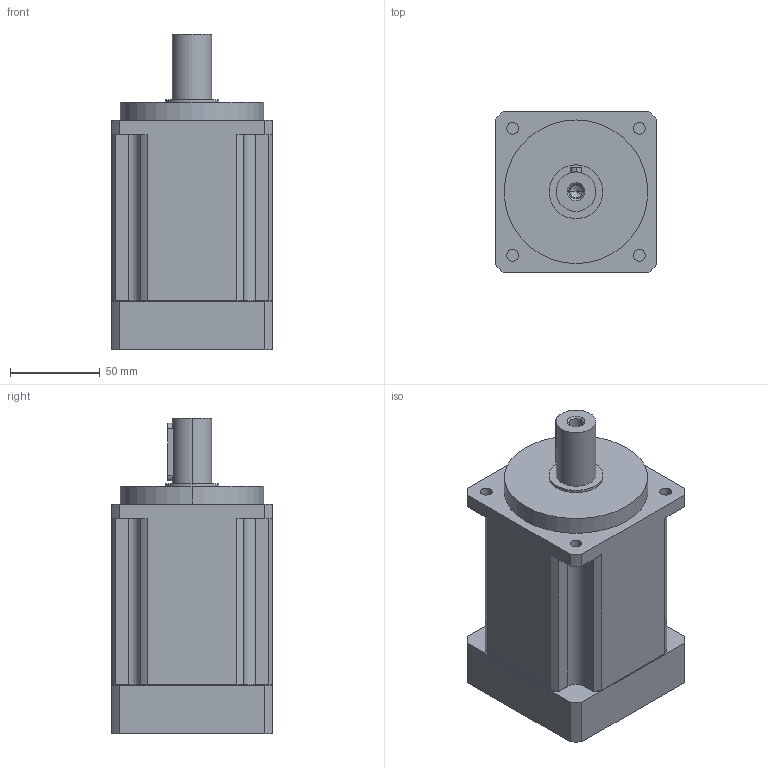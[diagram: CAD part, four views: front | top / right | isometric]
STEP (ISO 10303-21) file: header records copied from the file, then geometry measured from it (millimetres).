
FILE_DESCRIPTION (( 'STEP AP203' ), '1' );
FILE_NAME ('IB90L2-i-P2-S2-19-40-70-90-M6.STEP', '2016-01-04T12:31:31', ( 'User' ), ( 'china' ), 'SwSTEP 2.0', 'SolidWorks 2014', '' );
FILE_SCHEMA (( 'CONFIG_CONTROL_DESIGN' ));
Length unit declared in the file: millimetre
Products named in the file (1): IB90L2-i-P2-S2-19-40-70-90-M6
Bounding box: 90 x 90 x 176 mm (x, y, z)
Volume: 960145 mm3; surface area: 72914.7 mm2
Topology: 1 solids, 1 shells, 133 faces, 321 edges, 197 vertices
Faces by surface type: cylinder 73, plane 36, cone 12, torus 12
Entity records: 4016 total; most frequent: CARTESIAN_POINT 785, DIRECTION 701, ORIENTED_EDGE 622, EDGE_CURVE 311, AXIS2_PLACEMENT_3D 275, VERTEX_POINT 197, EDGE_LOOP 158, LINE 151
